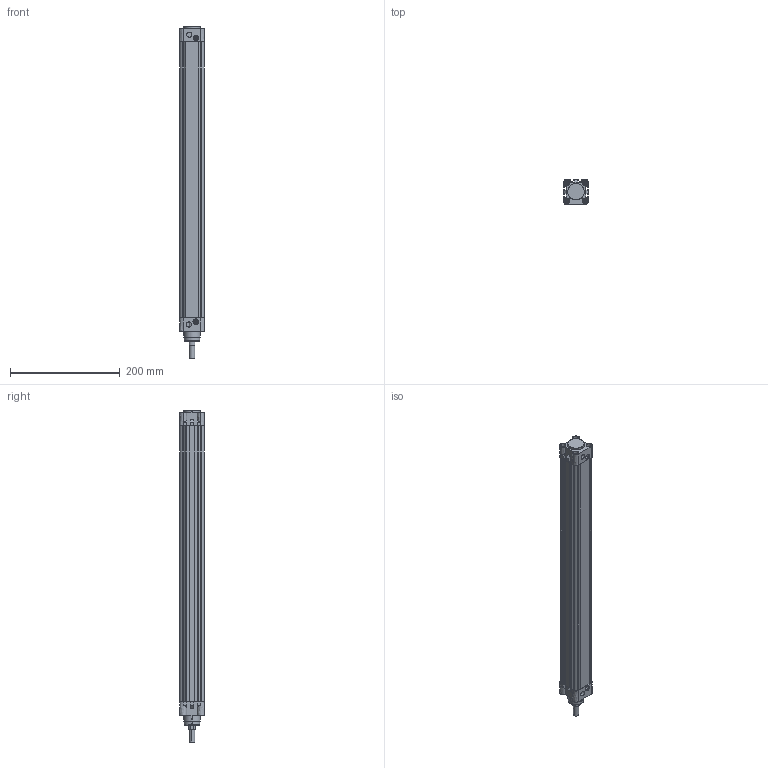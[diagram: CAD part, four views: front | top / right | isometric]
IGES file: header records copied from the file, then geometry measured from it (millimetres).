
Start section: SolidWorks IGES file using analytic representation for surfaces
Global section: file name: D:\ARICA 3D ÇÝZÝMLER\3D IGES\DNCAT-S DÖNMEZ MÝLLÝ SERÝSÝ\DNCAT-S 32\DNCAT-S-32x460CYLINDER.IGS; native system: SolidWorks 2013; preprocessor: SolidWorks 2013; author: user; date: 161219.085116; units: millimetre
Bounding box: 45.5 x 45.5 x 604.75 mm (x, y, z)
Surface area: 261571 mm2 (no closed solid volume)
Topology: 0 solids, 0 shells, 319 faces, 4944 edges, 4944 vertices
Faces by surface type: bspline 189, revolution 130
